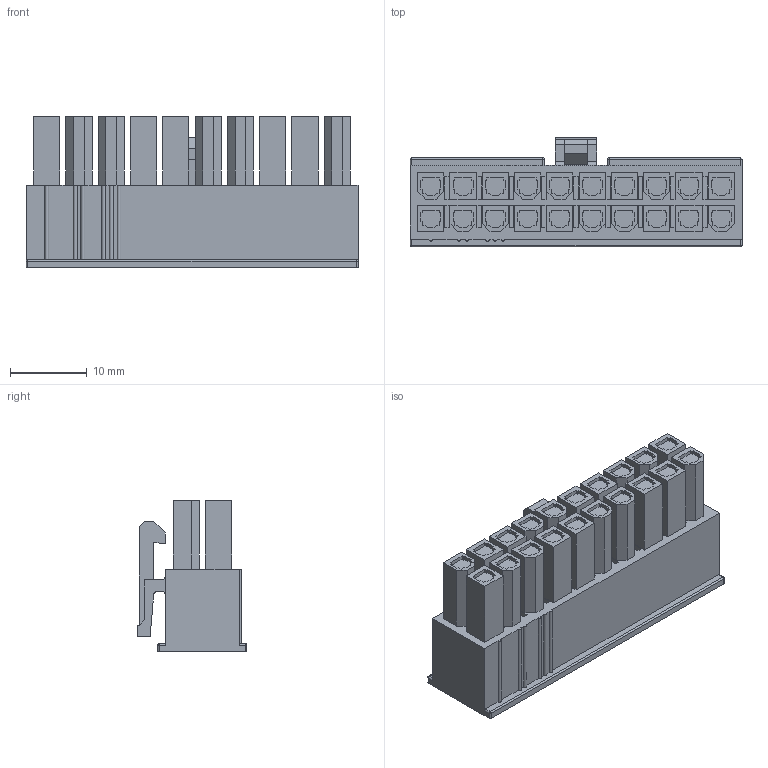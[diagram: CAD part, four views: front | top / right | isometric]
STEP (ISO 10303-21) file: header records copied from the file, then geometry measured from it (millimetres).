
FILE_DESCRIPTION((''),'2;1');
FILE_NAME('57956-020HXXX-XXX','2018-02-03T',('d33379'),(''),'CREO PARAMETRIC BY PTC INC, 2014500','CREO PARAMETRIC BY PTC INC, 2014500','');
FILE_SCHEMA(('CONFIG_CONTROL_DESIGN'));
Length unit declared in the file: millimetre
Products named in the file (1): 57956-020HXXX-XXX
Bounding box: 43.2 x 14.3 x 19.6 mm (x, y, z)
Volume: 6386.2 mm3; surface area: 5069 mm2
Topology: 1 solids, 1 shells, 892 faces, 2390 edges, 1586 vertices
Faces by surface type: plane 859, cylinder 27, sphere 6
Entity records: 27314 total; most frequent: CARTESIAN_POINT 4868, ORIENTED_EDGE 4780, DIRECTION 4228, EDGE_CURVE 2390, VECTOR 2336, LINE 2336, VERTEX_POINT 1586, EDGE_LOOP 980
